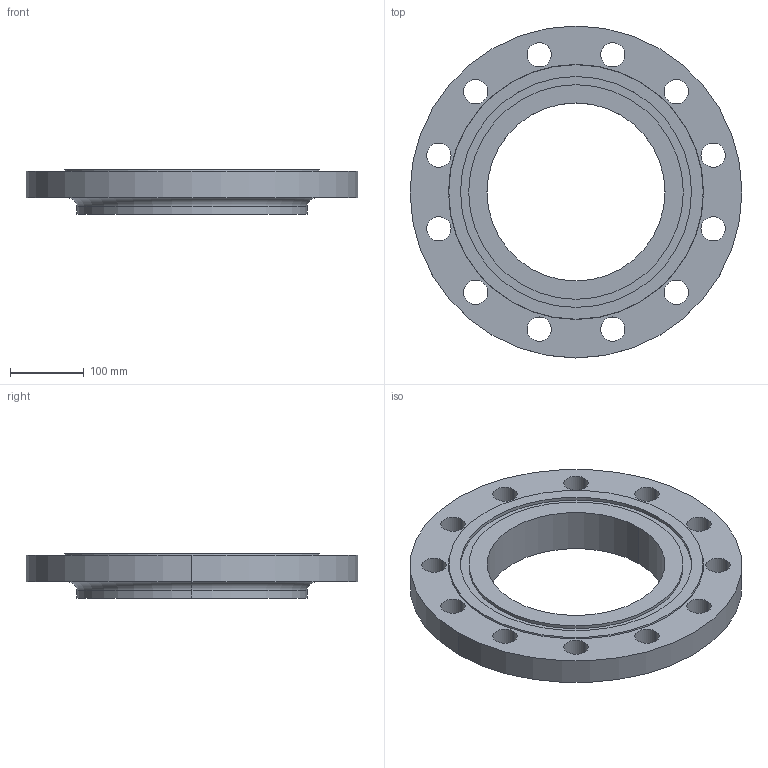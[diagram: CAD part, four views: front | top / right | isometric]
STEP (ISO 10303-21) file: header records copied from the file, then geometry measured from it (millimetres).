
FILE_DESCRIPTION (( 'STEP AP214' ), '1' );
FILE_NAME ('PN40 DN250 Type 13 - Type D Face.STEP', '2019-01-05T15:59:50', ( '' ), ( '' ), 'SwSTEP 2.0', 'SolidWorks 2019', '' );
FILE_SCHEMA (( 'AUTOMOTIVE_DESIGN' ));
Length unit declared in the file: millimetre
Products named in the file (1): PN40 DN250 Type 13 - Type D Face
Bounding box: 450 x 450 x 60 mm (x, y, z)
Volume: 4464509.8 mm3; surface area: 374179.2 mm2
Topology: 1 solids, 1 shells, 44 faces, 112 edges, 74 vertices
Faces by surface type: cylinder 34, plane 6, torus 2, cone 2
Entity records: 1462 total; most frequent: DIRECTION 278, CARTESIAN_POINT 231, ORIENTED_EDGE 224, AXIS2_PLACEMENT_3D 121, EDGE_CURVE 112, CIRCLE 76, EDGE_LOOP 74, VERTEX_POINT 74
